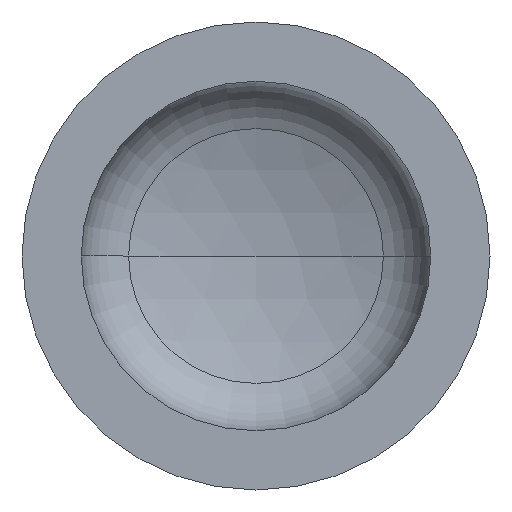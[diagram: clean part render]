
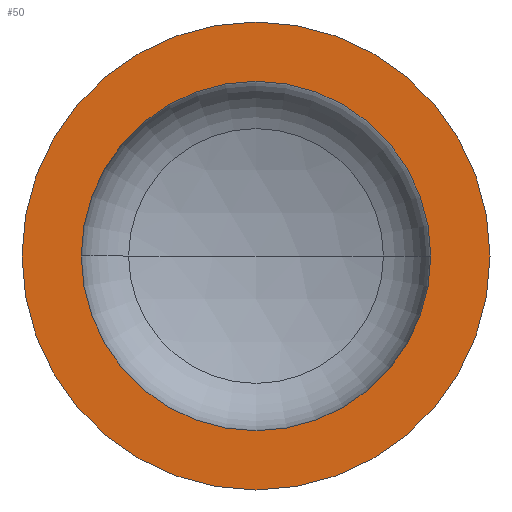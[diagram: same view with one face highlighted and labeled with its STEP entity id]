
A CAD part, front view. The second image highlights one B-rep face of the part: STEP entity #50.
In plain terms, the highlighted planar face has unit normal (0, -1, 0).
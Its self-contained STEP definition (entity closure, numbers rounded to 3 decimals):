
#4 = DIRECTION ( 'NONE',  ( 0., 1., 0. ) ) ;
#5 = CIRCLE ( 'NONE', #80, 300. ) ;
#17 = EDGE_CURVE ( 'NONE', #159, #146, #220, .T. ) ;
#21 = EDGE_CURVE ( 'NONE', #298, #205, #405, .T. ) ;
#30 = AXIS2_PLACEMENT_3D ( 'NONE', #148, #176, #178 ) ;
#48 = ORIENTED_EDGE ( 'NONE', *, *, #21, .F. ) ;
#50 = ADVANCED_FACE ( 'NONE', ( #83, #197 ), #161, .F. ) ;
#53 = ORIENTED_EDGE ( 'NONE', *, *, #332, .T. ) ;
#59 = DIRECTION ( 'NONE',  ( -1., 0., 0. ) ) ;
#80 = AXIS2_PLACEMENT_3D ( 'NONE', #92, #99, #305 ) ;
#83 = FACE_BOUND ( 'NONE', #85, .T. ) ;
#84 = ORIENTED_EDGE ( 'NONE', *, *, #299, .F. ) ;
#85 = EDGE_LOOP ( 'NONE', ( #48, #84 ) ) ;
#92 = CARTESIAN_POINT ( 'NONE',  ( 0., 0., 0. ) ) ;
#99 = DIRECTION ( 'NONE',  ( 0., -1., 0. ) ) ;
#127 = CARTESIAN_POINT ( 'NONE',  ( 0., 0., 0. ) ) ;
#135 = CARTESIAN_POINT ( 'NONE',  ( 300., 0., 0. ) ) ;
#146 = VERTEX_POINT ( 'NONE', #135 ) ;
#148 = CARTESIAN_POINT ( 'NONE',  ( 0., 0., 0. ) ) ;
#159 = VERTEX_POINT ( 'NONE', #223 ) ;
#161 = PLANE ( 'NONE',  #249 ) ;
#176 = DIRECTION ( 'NONE',  ( 0., -1., 0. ) ) ;
#178 = DIRECTION ( 'NONE',  ( 1., 0., 0. ) ) ;
#190 = ORIENTED_EDGE ( 'NONE', *, *, #17, .T. ) ;
#192 = CARTESIAN_POINT ( 'NONE',  ( -300., 0., 0. ) ) ;
#197 = FACE_OUTER_BOUND ( 'NONE', #370, .T. ) ;
#205 = VERTEX_POINT ( 'NONE', #395 ) ;
#220 = CIRCLE ( 'NONE', #30, 300. ) ;
#223 = CARTESIAN_POINT ( 'NONE',  ( -300., 0., 0. ) ) ;
#225 = DIRECTION ( 'NONE',  ( 1., 0., 0. ) ) ;
#243 = AXIS2_PLACEMENT_3D ( 'NONE', #345, #352, #351 ) ;
#249 = AXIS2_PLACEMENT_3D ( 'NONE', #192, #4, #59 ) ;
#296 = CARTESIAN_POINT ( 'NONE',  ( 224., 0., 0. ) ) ;
#298 = VERTEX_POINT ( 'NONE', #296 ) ;
#299 = EDGE_CURVE ( 'NONE', #205, #298, #304, .T. ) ;
#304 = CIRCLE ( 'NONE', #388, 224. ) ;
#305 = DIRECTION ( 'NONE',  ( 1., 0., 0. ) ) ;
#332 = EDGE_CURVE ( 'NONE', #146, #159, #5, .T. ) ;
#345 = CARTESIAN_POINT ( 'NONE',  ( 0., 0., 0. ) ) ;
#351 = DIRECTION ( 'NONE',  ( 1., 0., 0. ) ) ;
#352 = DIRECTION ( 'NONE',  ( 0., -1., 0. ) ) ;
#370 = EDGE_LOOP ( 'NONE', ( #53, #190 ) ) ;
#374 = DIRECTION ( 'NONE',  ( 0., -1., 0. ) ) ;
#388 = AXIS2_PLACEMENT_3D ( 'NONE', #127, #374, #225 ) ;
#395 = CARTESIAN_POINT ( 'NONE',  ( -224., 0., 0. ) ) ;
#405 = CIRCLE ( 'NONE', #243, 224. ) ;
